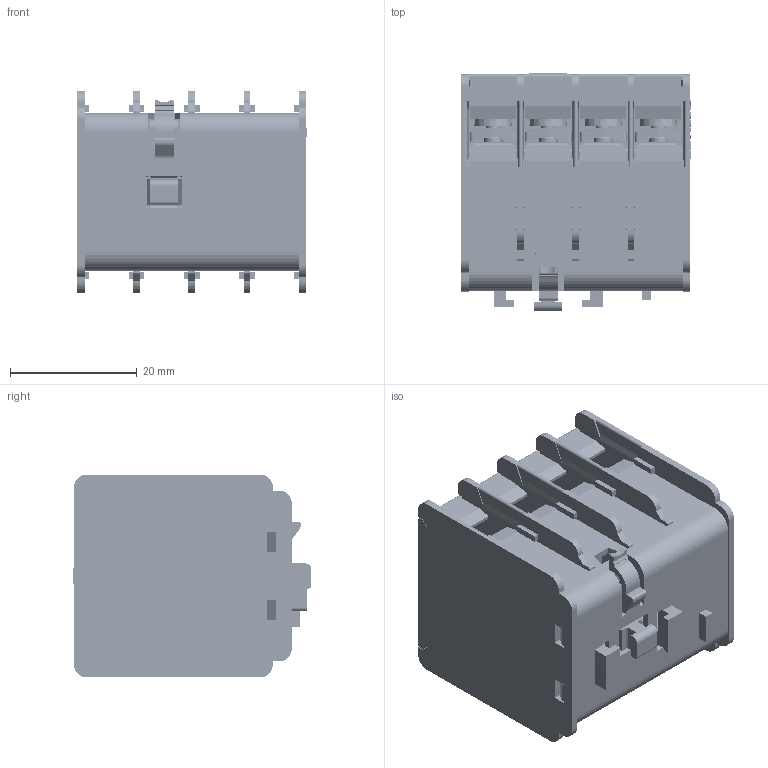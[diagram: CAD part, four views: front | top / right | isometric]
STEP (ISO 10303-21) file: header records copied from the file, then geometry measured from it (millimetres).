
FILE_DESCRIPTION((''),'2;1');
FILE_NAME('5TZD_558_6274_ASM','2025-09-23T14:26:03',('zhuyongjie'),(''),'CREO PARAMETRIC BY PTC INC, 2020354','CREO PARAMETRIC BY PTC INC, 2020354','');
FILE_SCHEMA(('CONFIG_CONTROL_DESIGN'));
Products named in the file (48): 8TZD_024_6125; 8TZD_104_6019; 8TZD_553_6009; 8TZD_550_6101_AF3; 8TZD_550_6101_AF4; 5TZD_553_6007_AF0_ASM; 8TZD_550_6101_AF5; 8TZD_550_6101_AF6; 5TZD_553_6007_AF1_ASM; 8TZD_550_6101_AF7; 8TZD_550_6101_AF8; 5TZD_553_6007_AF2_ASM; 8TZD_550_6101_AF9; 8TZD_550_6101_AF10; 5TZD_553_6007_AF3_ASM; 8TZD_550_6101_AF11; 8TZD_550_6101_AF12; 5TZD_553_6007_AF4_ASM; 8TZD_550_6101_AF13; 8TZD_550_6101_AF14; 5TZD_553_6007_AF5_ASM; 8TZD_550_6101_AF15; 8TZD_550_6101_AF16; 5TZD_553_6007_AF6_ASM; 8TZD_550_6101_AF17; 8TZD_550_6101_AF2; 5TZD_553_6007_AF7_ASM; 8TZD_282_6040_AF4; 8TZD_282_6040_AF5; 8TZD_282_6040_AF6; 8TZD_282_6040_AF7; 8TZD_282_6054_AF29; 8TZD_282_6054_AF34; 8TZD_282_6054_AF31; 8TZD_282_6054_AF30; 8TZD_100_6023; 5TZD_104_6022_AF1_ASM; 8TZD_557_6039; 8TZD_550_6091_AF0; 5TZD_550_6034_ASM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
Assembly tree (78 placements, depth 4):
  5TZD_558_6274_ASM
    8TZD_024_6125
    5TZD_104_6022_AF1_ASM
      8TZD_104_6019
      5TZD_553_6007_AF0_ASM
        8TZD_553_6009
        8TZD_550_6101_AF3
        8TZD_550_6101_AF4
      5TZD_553_6007_AF1_ASM
        8TZD_553_6009
        8TZD_550_6101_AF5
        8TZD_550_6101_AF6
      5TZD_553_6007_AF2_ASM
        8TZD_553_6009
        8TZD_550_6101_AF7
        8TZD_550_6101_AF8
      5TZD_553_6007_AF3_ASM
        8TZD_553_6009
        8TZD_550_6101_AF9
        8TZD_550_6101_AF10
      5TZD_553_6007_AF4_ASM
        8TZD_553_6009
        8TZD_550_6101_AF11
        8TZD_550_6101_AF12
      5TZD_553_6007_AF5_ASM
        8TZD_553_6009
        8TZD_550_6101_AF13
        8TZD_550_6101_AF14
      5TZD_553_6007_AF6_ASM
        8TZD_553_6009
        8TZD_550_6101_AF15
        8TZD_550_6101_AF16
      5TZD_553_6007_AF7_ASM
        8TZD_553_6009
        8TZD_550_6101_AF17
        8TZD_550_6101_AF2
      8TZD_282_6040_AF4
      8TZD_282_6040_AF5
      8TZD_282_6040_AF6
      8TZD_282_6040_AF7
      8TZD_282_6054_AF29
      8TZD_282_6054_AF34
      8TZD_282_6054_AF31
      8TZD_282_6054_AF30
      8TZD_100_6023  x4
    5TZD_550_6034_ASM  x8
      8TZD_557_6039
      8TZD_550_6091_AF0
    5TZD_550_6033_ASM  x8
      8TZD_557_6038_AF0
      8TZD_550_6091_AF1
    8TZD_022_6031
    8TZD_903_6007  x8
    8TZD_315_6268
    8TZD_865_6095
Bounding box: 36.21 x 37.7 x 32 mm (x, y, z)
Volume: 19188.3 mm3; surface area: 41597.1 mm2
Topology: 81 solids, 97 shells, 9122 faces, 24656 edges, 16078 vertices
Faces by surface type: plane 5821, extrusion 1260, cylinder 1249, torus 536, bspline 112, cone 80, sphere 64
Entity records: 210853 total; most frequent: CARTESIAN_POINT 67675, ORIENTED_EDGE 31808, DIRECTION 24347, EDGE_CURVE 15908, VECTOR 12279, LINE 11019, VERTEX_POINT 10430, EDGE_LOOP 6270
